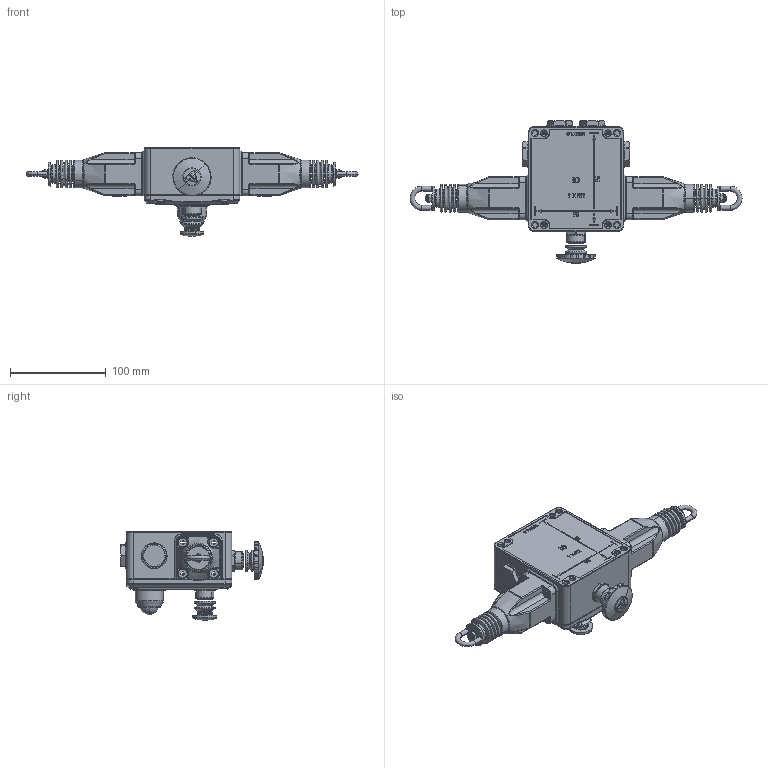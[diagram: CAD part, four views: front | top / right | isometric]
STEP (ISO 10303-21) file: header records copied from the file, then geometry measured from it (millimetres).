
FILE_DESCRIPTION (( 'STEP AP203' ), '1' );
FILE_NAME ('141-GLHD (with LED & E-Stop) step format.STEP', '2012-11-16T15:34:28', ( '' ), ( '' ), 'SwSTEP 2.0', 'SolidWorks 2010', '' );
FILE_SCHEMA (( 'CONFIG_CONTROL_DESIGN' ));
Length unit declared in the file: millimetre
Products named in the file (1): 141-GLHD (with LED & E-Stop) step format
Bounding box: 347 x 149.01 x 92.5 mm (x, y, z)
Surface area: 100155.7 mm2 (no closed solid volume)
Topology: 0 solids, 67 shells, 1394 faces, 4618 edges, 3050 vertices
Faces by surface type: cylinder 426, plane 320, torus 296, bspline 221, cone 100, sphere 31
Entity records: 62747 total; most frequent: CARTESIAN_POINT 25161, DIRECTION 7739, ORIENTED_EDGE 7288, EDGE_CURVE 4566, AXIS2_PLACEMENT_3D 3061, VERTEX_POINT 3048, CIRCLE 1887, LINE 1617
